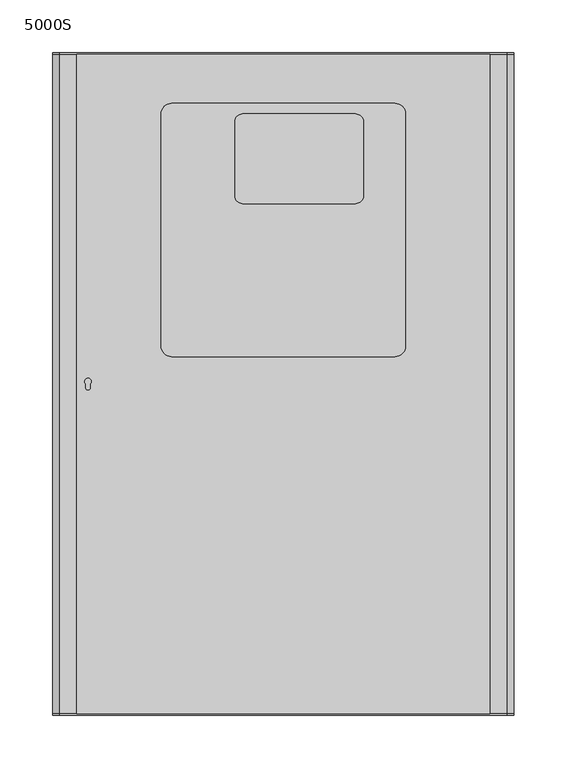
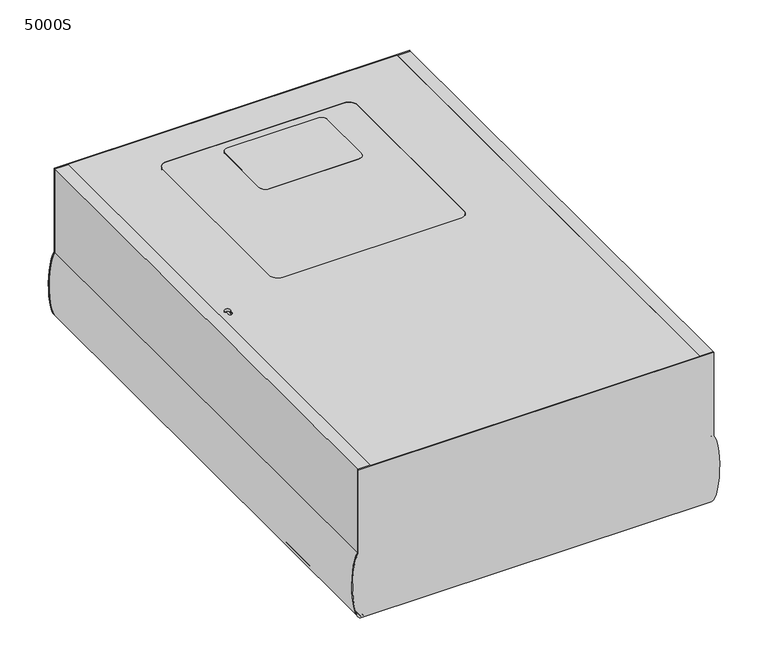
"""IFC4 building model written with IfcOpenShell, lengths in millimetres: alarm geometry, 5000S_Control Panel and Indicating Equipment : 5000S."""

import ifcopenshell
import ifcopenshell.guid

model = None  # the IFC model being written
_history = None  # IfcOwnerHistory: only IFC2X3 demands one
_inside = {}  # id of a spatial element -> (the spatial element, [elements in it])
_under = {}  # id of a project, library or spatial element -> (it, [spatial elements below it])
_declared = {}  # id of a project -> (the project, [libraries it declares])
_typed = {}  # id of a type object -> (the type object, [elements of that type])
_made_of = {}  # id of a material, layer set ... -> (it, [elements and type objects made of it])


def new_model(schema):
    """Start an empty IFC model of exactly this schema.

    Asked for "IFC4X3", IfcOpenShell would pick the latest addendum, in which some entities
    have other attributes; the version numbers below select the first issue.
    IFC2X3 requires an IfcOwnerHistory on every rooted entity: one is made here for all.
    """
    global model, _history
    if schema == "IFC4X3":
        model = ifcopenshell.file(schema_version=(4, 3, 0, 0))
    else:
        model = ifcopenshell.file(schema=schema)
    _inside.clear()
    _under.clear()
    _declared.clear()
    _typed.clear()
    _made_of.clear()
    _history = None
    if model.schema == "IFC2X3":
        org = make("IfcOrganization", Name="unknown")
        user = make(
            "IfcPersonAndOrganization",
            ThePerson=make("IfcPerson", FamilyName="unknown"),
            TheOrganization=org,
        )
        app = make(
            "IfcApplication",
            ApplicationDeveloper=org,
            Version="unknown",
            ApplicationFullName="unknown",
            ApplicationIdentifier="unknown",
        )
        _history = make(
            "IfcOwnerHistory",
            OwningUser=user,
            OwningApplication=app,
            ChangeAction="ADDED",
            CreationDate=0,
        )
    return model


def make(cls, **values):
    """One entity of the class cls with the attributes given. An attribute that is None is left unset."""
    return model.create_entity(
        cls, **{name: value for name, value in values.items() if value is not None}
    )


def rooted(cls, **values):
    """An entity with a GlobalId (a new one), such as an element, a storey or a relation."""
    return make(cls, GlobalId=ifcopenshell.guid.new(), OwnerHistory=_history, **values)


def si_unit(unit_type, name, prefix=None):
    """IfcSIUnit, for example si_unit("LENGTHUNIT", "METRE", prefix="MILLI")."""
    return make("IfcSIUnit", UnitType=unit_type, Prefix=prefix, Name=name)


def assignment(units):
    """IfcUnitAssignment: the units of a project."""
    return None if units is None else make("IfcUnitAssignment", Units=units)


def point(xyz):
    """IfcCartesianPoint."""
    return None if xyz is None else make("IfcCartesianPoint", Coordinates=xyz)


def direction(xyz):
    """IfcDirection."""
    return None if xyz is None else make("IfcDirection", DirectionRatios=xyz)


def frame(location, z_axis=None, x_axis=None):
    """IfcAxis2Placement3D, a coordinate frame: its origin and axes. An axis left out is left unset."""
    return make(
        "IfcAxis2Placement3D",
        Location=point(location),
        Axis=direction(z_axis),
        RefDirection=direction(x_axis),
    )


def frame_2d(location, x_axis=None):
    """IfcAxis2Placement2D, a coordinate frame in the plane: its origin and x axis."""
    return make(
        "IfcAxis2Placement2D", Location=point(location), RefDirection=direction(x_axis)
    )


def origin():
    """The frame at (0, 0, 0) with its axes left unset."""
    return frame((0.0, 0.0, 0.0))


def origin_with_axes():
    """The frame at (0, 0, 0) with the z axis (0, 0, 1) and the x axis (1, 0, 0) written out."""
    return frame((0.0, 0.0, 0.0), z_axis=(0.0, 0.0, 1.0), x_axis=(1.0, 0.0, 0.0))


def place(relative_to, where):
    """IfcLocalPlacement: puts the frame where relative to a parent placement (None: the world)."""
    return make(
        "IfcLocalPlacement", PlacementRelTo=relative_to, RelativePlacement=where
    )


def context(
    kind, dimensions, precision=None, world=None, true_north=None, identifier=None
):
    """IfcGeometricRepresentationContext, for example the 3D "Model" context."""
    return make(
        "IfcGeometricRepresentationContext",
        ContextIdentifier=identifier,
        ContextType=kind,
        CoordinateSpaceDimension=dimensions,
        Precision=precision,
        WorldCoordinateSystem=world,
        TrueNorth=true_north,
    )


def project(units=None, contexts=None):
    """IfcProject with its units and contexts."""
    return rooted(
        "IfcProject",
        Name="project",
        RepresentationContexts=contexts,
        UnitsInContext=assignment(units),
    )


def spatial(cls, under=None, at=None, **own):
    """A site, building, storey or space (cls), placed at a placement, below another one or the project."""
    s = rooted(cls, ObjectPlacement=at, **own)
    if under is not None:
        _under.setdefault(under.id(), (under, []))[1].append(s)
    return s


def polyline(points):
    """IfcPolyline through the points."""
    return make("IfcPolyline", Points=[point(p) for p in points])


def circle_curve(where, radius):
    """IfcCircle in the frame where."""
    return make("IfcCircle", Position=where, Radius=radius)


def ellipse_curve(where, semi_axis1, semi_axis2):
    """IfcEllipse in the frame where."""
    return make(
        "IfcEllipse", Position=where, SemiAxis1=semi_axis1, SemiAxis2=semi_axis2
    )


def trimmed(basis, trim1, trim2, sense, master):
    """IfcTrimmedCurve: the piece of a basis curve between two trims."""
    return make(
        "IfcTrimmedCurve",
        BasisCurve=basis,
        Trim1=trim1,
        Trim2=trim2,
        SenseAgreement=sense,
        MasterRepresentation=master,
    )


def segment(curve, same_sense, transition):
    """IfcCompositeCurveSegment."""
    return make(
        "IfcCompositeCurveSegment",
        Transition=transition,
        SameSense=same_sense,
        ParentCurve=curve,
    )


def composite_curve(segments, self_intersect=None):
    """IfcCompositeCurve: segments joined end to end."""
    return make("IfcCompositeCurve", Segments=segments, SelfIntersect=self_intersect)


def outline(outer, holes=None, kind="AREA"):
    """IfcArbitraryClosedProfileDef: a profile drawn as a closed curve; with holes, ...WithVoids."""
    if holes is None:
        return make("IfcArbitraryClosedProfileDef", ProfileType=kind, OuterCurve=outer)
    return make(
        "IfcArbitraryProfileDefWithVoids",
        ProfileType=kind,
        OuterCurve=outer,
        InnerCurves=holes,
    )


def extrude(swept, where, along, depth):
    """IfcExtrudedAreaSolid: the profile swept, set in the frame where, extruded along a direction by depth."""
    return make(
        "IfcExtrudedAreaSolid",
        SweptArea=swept,
        Position=where,
        ExtrudedDirection=direction(along),
        Depth=depth,
    )


def shape(context_of_items, identifier, shape_type, items):
    """IfcShapeRepresentation: the items that make up one representation, for example the "Body"."""
    return make(
        "IfcShapeRepresentation",
        ContextOfItems=context_of_items,
        RepresentationIdentifier=identifier,
        RepresentationType=shape_type,
        Items=items,
    )


def source(mapping_origin, context_of_items, identifier, shape_type, items):
    """IfcRepresentationMap: a shape defined once, which mapped items show again and again."""
    return make(
        "IfcRepresentationMap",
        MappingOrigin=mapping_origin,
        MappedRepresentation=shape(context_of_items, identifier, shape_type, items),
    )


def transform(
    local_origin,
    x_axis=None,
    y_axis=None,
    z_axis=None,
    scale=None,
    scale2=None,
    scale3=None,
    uniform=True,
):
    """IfcCartesianTransformationOperator3D, or its non-uniform kind. x_axis, y_axis, z_axis: its Axis1, 2, 3."""
    if uniform:
        return make(
            "IfcCartesianTransformationOperator3D",
            Axis1=direction(x_axis),
            Axis2=direction(y_axis),
            LocalOrigin=point(local_origin),
            Scale=scale,
            Axis3=direction(z_axis),
        )
    return make(
        "IfcCartesianTransformationOperator3DnonUniform",
        Axis1=direction(x_axis),
        Axis2=direction(y_axis),
        LocalOrigin=point(local_origin),
        Scale=scale,
        Axis3=direction(z_axis),
        Scale2=scale2,
        Scale3=scale3,
    )


def mapped(mapping_source, mapping_target):
    """IfcMappedItem: shows the shape of a source again, moved by a transform."""
    return make(
        "IfcMappedItem", MappingSource=mapping_source, MappingTarget=mapping_target
    )


def made_of(thing, what):
    """Note that an element or type object is made of a material, layer set ...; save() writes the relation."""
    if what is not None:
        _made_of.setdefault(what.id(), (what, []))[1].append(thing)
    return thing


def element(
    cls,
    number,
    at=None,
    inside=None,
    cuts=None,
    type_object=None,
    material=None,
    context=None,
    identifier="Body",
    shape_type=None,
    held_by="IfcProductDefinitionShape",
    body=None,
    shapes=None,
    **own,
):
    """One element of the class cls, such as IfcWall. Its Tag is "e" and its number.

    at: its placement. inside: the storey or other place that contains it. cuts: it is an
    opening in that element (IfcRelVoidsElement). A single representation is given by context,
    identifier, shape_type and body (its items); several are given by shapes. held_by: the class
    of the entity that holds the representations. save() writes the other relations.
    """
    e = rooted(cls, Tag="e%d" % number, ObjectPlacement=at, **own)
    if body is not None:
        shapes = [shape(context, identifier, shape_type, body)]
    if shapes is not None:
        e.Representation = make(held_by, Representations=shapes)
    if inside is not None:
        _inside.setdefault(inside.id(), (inside, []))[1].append(e)
    if cuts is not None:
        rooted(
            "IfcRelVoidsElement", RelatingBuildingElement=cuts, RelatedOpeningElement=e
        )
    if type_object is not None:
        _typed.setdefault(type_object.id(), (type_object, []))[1].append(e)
    return made_of(e, material)


def aggregate(whole, parts):
    """IfcRelAggregates: a whole, such as a stair, and the parts it consists of."""
    return rooted("IfcRelAggregates", RelatingObject=whole, RelatedObjects=parts)


def save(model, path):
    """Write the relations noted so far, then the file.

    IfcRelAggregates (storeys below a building ...), IfcRelContainedInSpatialStructure (elements
    in a storey), IfcRelDefinesByType, IfcRelAssociatesMaterial and IfcRelDeclares: one each for
    every whole, place, type object, material and project.
    """
    for whole, parts in _under.values():
        aggregate(whole, parts)
    for where, things in _inside.values():
        rooted(
            "IfcRelContainedInSpatialStructure",
            RelatedElements=things,
            RelatingStructure=where,
        )
    for kind, things in _typed.values():
        rooted("IfcRelDefinesByType", RelatedObjects=things, RelatingType=kind)
    for what, things in _made_of.values():
        rooted("IfcRelAssociatesMaterial", RelatedObjects=things, RelatingMaterial=what)
    for by, libraries in _declared.values():
        rooted("IfcRelDeclares", RelatingContext=by, RelatedDefinitions=libraries)
    model.write(path)


def plane_surface(at):
    """IfcPlane: the flat surface through the origin of the frame at, square to its z axis."""
    return make("IfcPlane", Position=at)


def extruded_surface(curve, direction_of_extrusion, depth):
    """IfcSurfaceOfLinearExtrusion: the curve pushed along a direction by depth."""
    return make(
        "IfcSurfaceOfLinearExtrusion",
        SweptCurve=make("IfcArbitraryOpenProfileDef", ProfileType="CURVE", Curve=curve),
        ExtrudedDirection=direction(direction_of_extrusion),
        Depth=depth,
    )


def advanced_brep(points, edges, surfaces, faces):
    """IfcAdvancedBrep: a solid bounded by faces that lie on surfaces and meet in shared edges.

    An edge is (start, end): straight between two places in points (the first is 0);
    or (start, end, curve); or (start, end, curve, False) where it runs against its curve.
    A face is (place in surfaces, loops), or (place, loops, False) where it looks against
    its surface's normal. A loop lists edges by number (the first is 1), with a minus sign
    where the edge is run from its end to its start. The first loop is the outer one.
    """
    corners = [point(p) for p in points]
    vertices = [make("IfcVertexPoint", VertexGeometry=c) for c in corners]
    made = []
    for start, end, *more in edges:
        made.append(
            make(
                "IfcEdgeCurve",
                EdgeStart=vertices[start],
                EdgeEnd=vertices[end],
                EdgeGeometry=more[0] if more else make("IfcPolyline", Points=[corners[start], corners[end]]),
                SameSense=more[1] if len(more) > 1 else True,
            )
        )
    hull = []
    for where, loops, *sense in faces:
        bounds = []
        for j, loop in enumerate(loops):
            ring = [make("IfcOrientedEdge", EdgeElement=made[abs(k) - 1], Orientation=k > 0) for k in loop]
            bounds.append(
                make(
                    "IfcFaceOuterBound" if j == 0 else "IfcFaceBound",
                    Bound=make("IfcEdgeLoop", EdgeList=ring),
                    Orientation=True,
                )
            )
        hull.append(make("IfcAdvancedFace", Bounds=bounds, FaceSurface=surfaces[where], SameSense=sense[0] if sense else True))
    return make("IfcAdvancedBrep", Outer=make("IfcClosedShell", CfsFaces=hull))


def alarm_5000s_0b88c54d(model_context):
    return source(origin(), model_context, "Body", "SolidModel", [
        extrude(outline(polyline([(196.0, 312.5), (196.0, -312.5), (-196.0, -312.5), (-196.0, 312.5), (196.0, 312.5)]), holes=[composite_curve([segment(trimmed(circle_curve(frame_2d((-106.0, 36.0)), 10.0), [point((-116.0, 36.0))], [point((-106.0, 26.0))], True, "CARTESIAN"), True, "CONTINUOUS"), segment(polyline([(-106.0, 26.0), (106.0, 26.0)]), True, "CONTINUOUS"), segment(trimmed(circle_curve(frame_2d((106.0, 36.0)), 10.0), [point((106.0, 26.0))], [point((116.0, 36.0))], True, "CARTESIAN"), True, "CONTINUOUS"), segment(polyline([(116.0, 36.0), (116.0, 256.0)]), True, "CONTINUOUS"), segment(trimmed(circle_curve(frame_2d((106.0, 256.0)), 10.0), [point((116.0, 256.0))], [point((106.0, 266.0))], True, "CARTESIAN"), True, "CONTINUOUS"), segment(polyline([(106.0, 266.0), (-106.0, 266.0)]), True, "CONTINUOUS"), segment(trimmed(circle_curve(frame_2d((-106.0, 256.0)), 10.0), [point((-106.0, 266.0))], [point((-116.0, 256.0))], True, "CARTESIAN"), True, "CONTINUOUS"), segment(polyline([(-116.0, 256.0), (-116.0, 36.0)]), True, "CONTINUOUS")], self_intersect=False), composite_curve([segment(trimmed(circle_curve(frame_2d((-185.3840305, -3.2991506)), 2.3331281), [point((-187.7171587, -3.2991506))], [point((-183.0509024, -3.2991506))], True, "CARTESIAN"), True, "CONTINUOUS"), segment(polyline([(-183.0509024, -3.2991506), (-183.0509024, 0.0)]), True, "CONTINUOUS"), segment(trimmed(circle_curve(frame_2d((-185.3840305, 2.1998224)), 3.2066658), [point((-183.0509024, 0.0))], [point((-187.7171587, 0.0))], True, "CARTESIAN"), True, "CONTINUOUS"), segment(polyline([(-187.7171587, 0.0), (-187.7171587, -3.2991506)]), True, "CONTINUOUS")], self_intersect=False)]), frame((0.0, 0.0, 184.0), z_axis=(0.0, 0.0, 1.0), x_axis=(1.0, 0.0, 0.0)), (0.0, 0.0, 1.0), 3.0),
        extrude(outline(polyline([(206.0, 312.5), (206.0, -312.5), (-206.0, -312.5), (-206.0, 312.5), (206.0, 312.5)])), origin_with_axes(), (0.0, 0.0, 1.0), 3.0),
        extrude(outline(composite_curve([segment(trimmed(circle_curve(frame_2d((-38.5, 248.5)), 7.5), [point((-46.0, 248.5))], [point((-38.5, 256.0))], False, "CARTESIAN"), True, "CONTINUOUS"), segment(polyline([(-38.5, 256.0), (68.5, 256.0)]), True, "CONTINUOUS"), segment(trimmed(circle_curve(frame_2d((68.5, 248.5)), 7.5), [point((68.5, 256.0))], [point((76.0, 248.5))], False, "CARTESIAN"), True, "CONTINUOUS"), segment(polyline([(76.0, 248.5), (76.0, 178.5)]), True, "CONTINUOUS"), segment(trimmed(circle_curve(frame_2d((68.5, 178.5)), 7.5), [point((76.0, 178.5))], [point((68.5, 171.0))], False, "CARTESIAN"), True, "CONTINUOUS"), segment(polyline([(68.5, 171.0), (-38.5, 171.0)]), True, "CONTINUOUS"), segment(trimmed(circle_curve(frame_2d((-38.5, 178.5)), 7.5), [point((-38.5, 171.0))], [point((-46.0, 178.5))], False, "CARTESIAN"), True, "CONTINUOUS"), segment(polyline([(-46.0, 178.5), (-46.0, 248.5)]), True, "CONTINUOUS")], self_intersect=False)), frame((0.0, 0.0, 184.0), z_axis=(0.0, 0.0, 1.0), x_axis=(1.0, 0.0, 0.0)), (0.0, 0.0, 1.0), 3.0),
        extrude(outline(composite_curve([segment(trimmed(circle_curve(frame_2d((-106.0, 256.0)), 10.0), [point((-116.0, 256.0))], [point((-106.0, 266.0))], False, "CARTESIAN"), True, "CONTINUOUS"), segment(polyline([(-106.0, 266.0), (106.0, 266.0)]), True, "CONTINUOUS"), segment(trimmed(circle_curve(frame_2d((106.0, 256.0)), 10.0), [point((106.0, 266.0))], [point((116.0, 256.0))], False, "CARTESIAN"), True, "CONTINUOUS"), segment(polyline([(116.0, 256.0), (116.0, 36.0)]), True, "CONTINUOUS"), segment(trimmed(circle_curve(frame_2d((106.0, 36.0)), 10.0), [point((116.0, 36.0))], [point((106.0, 26.0))], False, "CARTESIAN"), True, "CONTINUOUS"), segment(polyline([(106.0, 26.0), (-106.0, 26.0)]), True, "CONTINUOUS"), segment(trimmed(circle_curve(frame_2d((-106.0, 36.0)), 10.0), [point((-106.0, 26.0))], [point((-116.0, 36.0))], False, "CARTESIAN"), True, "CONTINUOUS"), segment(polyline([(-116.0, 36.0), (-116.0, 256.0)]), True, "CONTINUOUS")], self_intersect=False), holes=[composite_curve([segment(polyline([(68.5, 256.0), (-38.5, 256.0)]), True, "CONTINUOUS"), segment(trimmed(circle_curve(frame_2d((-38.5, 248.5)), 7.5), [point((-38.5, 256.0))], [point((-46.0, 248.5))], True, "CARTESIAN"), True, "CONTINUOUS"), segment(polyline([(-46.0, 248.5), (-46.0, 178.5)]), True, "CONTINUOUS"), segment(trimmed(circle_curve(frame_2d((-38.5, 178.5)), 7.5), [point((-46.0, 178.5))], [point((-38.5, 171.0))], True, "CARTESIAN"), True, "CONTINUOUS"), segment(polyline([(-38.5, 171.0), (68.5, 171.0)]), True, "CONTINUOUS"), segment(trimmed(circle_curve(frame_2d((68.5, 178.5)), 7.5), [point((68.5, 171.0))], [point((76.0, 178.5))], True, "CARTESIAN"), True, "CONTINUOUS"), segment(polyline([(76.0, 178.5), (76.0, 248.5)]), True, "CONTINUOUS"), segment(trimmed(circle_curve(frame_2d((68.5, 248.5)), 7.5), [point((76.0, 248.5))], [point((68.5, 256.0))], True, "CARTESIAN"), True, "CONTINUOUS")], self_intersect=False)]), frame((0.0, 0.0, 184.0), z_axis=(0.0, 0.0, 1.0), x_axis=(1.0, 0.0, 0.0)), (0.0, 0.0, 1.0), 3.0),
        advanced_brep(
        [(-212.0, 312.5, 187.0), (-212.0, 312.5, 82.0617947), (-209.0741049, 312.5, 0.0), (209.0741049, 312.5, 0.0), (212.0, 312.5, 82.0617947), (212.0, 312.5, 187.0), (-212.0, 314.0, 187.0), (212.0, 314.0, 187.0), (212.0, 314.0, 82.0617947), (209.0741049, 314.0, 0.0), (-209.0741049, 314.0, 0.0), (-212.0, 314.0, 82.0617947)],
        [
            (0, 1),
            (1, 2, ellipse_curve(frame((-209.0741049, 312.5, 41.9929453), z_axis=(0.0, -1.0, 0.0), x_axis=(0.0, 0.0, 1.0)), 41.9929453, 9.7780266)),
            (2, 3),
            (3, 4, ellipse_curve(frame((209.0741049, 312.5, 41.9929453), z_axis=(0.0, -1.0, 0.0), x_axis=(0.0, 0.0, 1.0)), 41.9929453, 9.7780266)),
            (4, 5),
            (5, 0),
            (6, 7),
            (7, 8),
            (8, 9, ellipse_curve(frame((209.0741049, 314.0, 41.9929453), z_axis=(0.0, 1.0, 0.0), x_axis=(0.0, 0.0, 1.0)), 41.9929453, 9.7780266)),
            (9, 10),
            (10, 11, ellipse_curve(frame((-209.0741049, 314.0, 41.9929453), z_axis=(0.0, 1.0, 0.0), x_axis=(0.0, 0.0, 1.0)), 41.9929453, 9.7780266)),
            (11, 6),
            (11, 1),
            (0, 6),
            (9, 3),
            (2, 10),
            (8, 4),
            (7, 5),
        ],
        [
            plane_surface(frame((-212.0, 312.5, 187.0), z_axis=(0.0, -1.0, 0.0), x_axis=(-1.0, 0.0, 0.0))),
            plane_surface(frame((-212.0, 314.0, 187.0), z_axis=(0.0, 1.0, 0.0), x_axis=(1.0, 0.0, 0.0))),
            plane_surface(frame((-212.0, 314.0, 82.0617947), z_axis=(-1.0, 0.0, 0.0), x_axis=(0.0, -1.0, 0.0))),
            plane_surface(frame((209.0741049, 314.0, 0.0), z_axis=(0.0, 0.0, -1.0), x_axis=(0.0, -1.0, 0.0))),
            extruded_surface(trimmed(ellipse_curve(frame((209.0741049, 311.0, 41.9929453), z_axis=(0.0, 1.0, 0.0), x_axis=(0.0, 0.0, 1.0)), 41.9929453, 9.7780266), [point((212.0, 311.0, 82.0617947))], [point((209.0741049, 311.0, 0.0))], True, "CARTESIAN"), (0.0, 1.5, 0.0), 1.5),
            plane_surface(frame((212.0, 314.0, 187.0), z_axis=(1.0, 0.0, 0.0), x_axis=(0.0, -1.0, 0.0))),
            plane_surface(frame((-212.0, 314.0, 187.0), z_axis=(0.0, 0.0, 1.0), x_axis=(0.0, -1.0, 0.0))),
            extruded_surface(trimmed(ellipse_curve(frame((-209.0741049, 311.0, 41.9929453), z_axis=(0.0, 1.0, 0.0), x_axis=(0.0, 0.0, 1.0)), 41.9929453, 9.7780266), [point((-209.0741049, 311.0, 0.0))], [point((-212.0, 311.0, 82.0617947))], True, "CARTESIAN"), (0.0, 1.5, 0.0), 1.5),
        ],
        [
            (0, [[1, 2, 3, 4, 5, 6]]),
            (1, [[7, 8, 9, 10, 11, 12]]),
            (2, [[-12, 13, -1, 14]]),
            (3, [[-10, 15, -3, 16]]),
            (4, [[-9, 17, -4, -15]]),
            (5, [[-8, 18, -5, -17]]),
            (6, [[-7, -14, -6, -18]]),
            (7, [[-11, -16, -2, -13]]),
        ],
    ),
        advanced_brep(
        [(-212.0, -312.5, 187.0), (212.0, -312.5, 187.0), (212.0, -312.5, 82.0617947), (209.0741049, -312.5, 0.0), (-209.0741049, -312.5, 0.0), (-212.0, -312.5, 82.0617947), (-212.0, -314.0, 187.0), (-212.0, -314.0, 82.0617947), (-209.0741049, -314.0, 0.0), (209.0741049, -314.0, 0.0), (212.0, -314.0, 82.0617947), (212.0, -314.0, 187.0)],
        [
            (0, 1),
            (1, 2),
            (2, 3, ellipse_curve(frame((209.0741049, -312.5, 41.9929453), z_axis=(0.0, 1.0, 0.0), x_axis=(0.0, 0.0, 1.0)), 41.9929453, 9.7780266)),
            (3, 4),
            (4, 5, ellipse_curve(frame((-209.0741049, -312.5, 41.9929453), z_axis=(0.0, 1.0, 0.0), x_axis=(0.0, 0.0, 1.0)), 41.9929453, 9.7780266)),
            (5, 0),
            (6, 7),
            (7, 8, ellipse_curve(frame((-209.0741049, -314.0, 41.9929453), z_axis=(0.0, -1.0, 0.0), x_axis=(0.0, 0.0, 1.0)), 41.9929453, 9.7780266)),
            (8, 9),
            (9, 10, ellipse_curve(frame((209.0741049, -314.0, 41.9929453), z_axis=(0.0, -1.0, 0.0), x_axis=(0.0, 0.0, 1.0)), 41.9929453, 9.7780266)),
            (10, 11),
            (11, 6),
            (6, 0),
            (5, 7),
            (8, 4),
            (3, 9),
            (2, 10),
            (1, 11),
        ],
        [
            plane_surface(frame((-212.0, -312.5, 82.0617947), z_axis=(0.0, 1.0, 0.0), x_axis=(0.0, 0.0, 1.0))),
            plane_surface(frame((-212.0, -314.0, 82.0617947), z_axis=(0.0, -1.0, 0.0), x_axis=(0.0, 0.0, -1.0))),
            plane_surface(frame((-212.0, -314.0, 187.0), z_axis=(-1.0, 0.0, 0.0), x_axis=(0.0, 1.0, 0.0))),
            plane_surface(frame((-209.0741049, -314.0, 0.0), z_axis=(0.0, 0.0, -1.0), x_axis=(0.0, 1.0, 0.0))),
            extruded_surface(trimmed(ellipse_curve(frame((209.0741049, -311.0, 41.9929453), z_axis=(0.0, -1.0, 0.0), x_axis=(0.0, 0.0, 1.0)), 41.9929453, 9.7780266), [point((209.0741049, -311.0, 0.0))], [point((212.0, -311.0, 82.0617947))], True, "CARTESIAN"), (0.0, -1.5, 0.0), 1.5),
            plane_surface(frame((212.0, -314.0, 82.0617947), z_axis=(1.0, 0.0, 0.0), x_axis=(0.0, 1.0, 0.0))),
            plane_surface(frame((212.0, -314.0, 187.0), z_axis=(0.0, 0.0, 1.0), x_axis=(0.0, 1.0, 0.0))),
            extruded_surface(trimmed(ellipse_curve(frame((-209.0741049, -311.0, 41.9929453), z_axis=(0.0, -1.0, 0.0), x_axis=(0.0, 0.0, 1.0)), 41.9929453, 9.7780266), [point((-212.0, -311.0, 82.0617947))], [point((-209.0741049, -311.0, 0.0))], True, "CARTESIAN"), (0.0, -1.5, 0.0), 1.5),
        ],
        [
            (0, [[1, 2, 3, 4, 5, 6]]),
            (1, [[7, 8, 9, 10, 11, 12]]),
            (2, [[-7, 13, -6, 14]]),
            (3, [[-9, 15, -4, 16]]),
            (4, [[-10, -16, -3, 17]]),
            (5, [[-11, -17, -2, 18]]),
            (6, [[-12, -18, -1, -13]]),
            (7, [[-8, -14, -5, -15]]),
        ],
    ),
        advanced_brep(
        [(209.0, -312.5, 82.0617947), (206.0741049, -312.5, 0.0), (209.0741049, -312.5, 0.0), (212.0, -312.5, 82.0617947), (212.0, -312.5, 187.0), (196.0, -312.5, 187.0), (196.0, -312.5, 184.0), (209.0, -312.5, 184.0), (209.0, 312.5, 82.0617947), (209.0, 312.5, 184.0), (196.0, 312.5, 184.0), (196.0, 312.5, 187.0), (212.0, 312.5, 187.0), (212.0, 312.5, 82.0617947), (209.0741049, 312.5, 0.0), (206.0741049, 312.5, 0.0)],
        [
            (0, 1, ellipse_curve(frame((206.0741049, -312.5, 41.9929453), z_axis=(0.0, 1.0, 0.0), x_axis=(0.0, 0.0, 1.0)), 41.9929453, 9.7780266)),
            (1, 2),
            (2, 3, ellipse_curve(frame((209.0741049, -312.5, 41.9929453), z_axis=(0.0, -1.0, 0.0), x_axis=(0.0, 0.0, 1.0)), 41.9929453, 9.7780266)),
            (3, 4),
            (4, 5),
            (5, 6),
            (6, 7),
            (7, 0),
            (8, 9),
            (9, 10),
            (10, 11),
            (11, 12),
            (12, 13),
            (13, 14, ellipse_curve(frame((209.0741049, 312.5, 41.9929453), z_axis=(0.0, 1.0, 0.0), x_axis=(0.0, 0.0, 1.0)), 41.9929453, 9.7780266)),
            (14, 15),
            (15, 8, ellipse_curve(frame((206.0741049, 312.5, 41.9929453), z_axis=(0.0, -1.0, 0.0), x_axis=(0.0, 0.0, 1.0)), 41.9929453, 9.7780266)),
            (7, 9),
            (8, 0),
            (6, 10),
            (5, 11),
            (4, 12),
            (3, 13),
            (2, 14),
            (1, 15),
        ],
        [
            plane_surface(frame((206.0741049, -312.5, 83.9858906), z_axis=(0.0, -1.0, 0.0), x_axis=(1.0, 0.0, 0.0))),
            plane_surface(frame((206.0741049, 312.5, 83.9858906), z_axis=(0.0, 1.0, 0.0), x_axis=(-1.0, 0.0, 0.0))),
            plane_surface(frame((209.0, -312.5, 184.0), z_axis=(-1.0, 0.0, 0.0), x_axis=(0.0, 1.0, 0.0))),
            plane_surface(frame((196.0, -312.5, 184.0), z_axis=(0.0, 0.0, -1.0), x_axis=(0.0, 1.0, 0.0))),
            plane_surface(frame((196.0, -312.5, 187.0), z_axis=(-1.0, 0.0, 0.0), x_axis=(0.0, 1.0, 0.0))),
            plane_surface(frame((212.0, -312.5, 187.0), z_axis=(0.0, 0.0, 1.0), x_axis=(0.0, 1.0, 0.0))),
            plane_surface(frame((212.0, -312.5, 82.0617947), z_axis=(1.0, 0.0, 0.0), x_axis=(0.0, 1.0, 0.0))),
            extruded_surface(trimmed(ellipse_curve(frame((209.0741049, 937.5, 41.9929453), z_axis=(0.0, -1.0, 0.0), x_axis=(0.0, 0.0, 1.0)), 41.9929453, 9.7780266), [point((209.0741049, 937.5, 0.0))], [point((212.0, 937.5, 82.0617947))], True, "CARTESIAN"), (0.0, -625.0, 0.0), 625.0),
            plane_surface(frame((206.0741049, -312.5, 0.0), z_axis=(0.0, 0.0, -1.0), x_axis=(0.0, 1.0, 0.0))),
            extruded_surface(trimmed(ellipse_curve(frame((206.0741049, 937.5, 41.9929453), z_axis=(0.0, 1.0, 0.0), x_axis=(0.0, 0.0, 1.0)), 41.9929453, 9.7780266), [point((209.0, 937.5, 82.0617947))], [point((206.0741049, 937.5, 0.0))], True, "CARTESIAN"), (0.0, -625.0, 0.0), 625.0),
        ],
        [
            (0, [[1, 2, 3, 4, 5, 6, 7, 8]]),
            (1, [[9, 10, 11, 12, 13, 14, 15, 16]]),
            (2, [[-8, 17, -9, 18]]),
            (3, [[-7, 19, -10, -17]]),
            (4, [[-6, 20, -11, -19]]),
            (5, [[-5, 21, -12, -20]]),
            (6, [[-4, 22, -13, -21]]),
            (7, [[-3, 23, -14, -22]]),
            (8, [[-2, 24, -15, -23]]),
            (9, [[-1, -18, -16, -24]]),
        ],
    ),
        advanced_brep(
        [(-209.0, -312.5, 82.0617947), (-209.0, -312.5, 184.0), (-196.0, -312.5, 184.0), (-196.0, -312.5, 187.0), (-212.0, -312.5, 187.0), (-212.0, -312.5, 82.0617947), (-209.0741049, -312.5, 0.0), (-206.0741049, -312.5, 0.0), (-209.0, 312.5, 82.0617947), (-206.0741049, 312.5, 0.0), (-209.0741049, 312.5, 0.0), (-212.0, 312.5, 82.0617947), (-212.0, 312.5, 187.0), (-196.0, 312.5, 187.0), (-196.0, 312.5, 184.0), (-209.0, 312.5, 184.0)],
        [
            (0, 1),
            (1, 2),
            (2, 3),
            (3, 4),
            (4, 5),
            (5, 6, ellipse_curve(frame((-209.0741049, -312.5, 41.9929453), z_axis=(0.0, -1.0, 0.0), x_axis=(0.0, 0.0, 1.0)), 41.9929453, 9.7780266)),
            (6, 7),
            (7, 0, ellipse_curve(frame((-206.0741049, -312.5, 41.9929453), z_axis=(0.0, 1.0, 0.0), x_axis=(0.0, 0.0, 1.0)), 41.9929453, 9.7780266)),
            (8, 9, ellipse_curve(frame((-206.0741049, 312.5, 41.9929453), z_axis=(0.0, -1.0, 0.0), x_axis=(0.0, 0.0, 1.0)), 41.9929453, 9.7780266)),
            (9, 10),
            (10, 11, ellipse_curve(frame((-209.0741049, 312.5, 41.9929453), z_axis=(0.0, 1.0, 0.0), x_axis=(0.0, 0.0, 1.0)), 41.9929453, 9.7780266)),
            (11, 12),
            (12, 13),
            (13, 14),
            (14, 15),
            (15, 8),
            (0, 8),
            (15, 1),
            (14, 2),
            (13, 3),
            (12, 4),
            (11, 5),
            (10, 6),
            (9, 7),
        ],
        [
            plane_surface(frame((-209.0, -312.5, 184.0), z_axis=(0.0, -1.0, 0.0), x_axis=(0.0, 0.0, 1.0))),
            plane_surface(frame((-209.0, 312.5, 184.0), z_axis=(0.0, 1.0, 0.0), x_axis=(0.0, 0.0, -1.0))),
            plane_surface(frame((-209.0, -312.5, 82.0617947), z_axis=(1.0, 0.0, 0.0), x_axis=(0.0, 1.0, 0.0))),
            plane_surface(frame((-209.0, -312.5, 184.0), z_axis=(0.0, 0.0, -1.0), x_axis=(0.0, 1.0, 0.0))),
            plane_surface(frame((-196.0, -312.5, 184.0), z_axis=(1.0, 0.0, 0.0), x_axis=(0.0, 1.0, 0.0))),
            plane_surface(frame((-196.0, -312.5, 187.0), z_axis=(0.0, 0.0, 1.0), x_axis=(0.0, 1.0, 0.0))),
            plane_surface(frame((-212.0, -312.5, 187.0), z_axis=(-1.0, 0.0, 0.0), x_axis=(0.0, 1.0, 0.0))),
            extruded_surface(trimmed(ellipse_curve(frame((-209.0741049, 937.5, 41.9929453), z_axis=(0.0, -1.0, 0.0), x_axis=(0.0, 0.0, 1.0)), 41.9929453, 9.7780266), [point((-212.0, 937.5, 82.0617947))], [point((-209.0741049, 937.5, 0.0))], True, "CARTESIAN"), (0.0, -625.0, 0.0), 625.0),
            plane_surface(frame((-209.0741049, -312.5, 0.0), z_axis=(0.0, 0.0, -1.0), x_axis=(0.0, 1.0, 0.0))),
            extruded_surface(trimmed(ellipse_curve(frame((-206.0741049, 937.5, 41.9929453), z_axis=(0.0, 1.0, 0.0), x_axis=(0.0, 0.0, 1.0)), 41.9929453, 9.7780266), [point((-206.0741049, 937.5, 0.0))], [point((-209.0, 937.5, 82.0617947))], True, "CARTESIAN"), (0.0, -625.0, 0.0), 625.0),
        ],
        [
            (0, [[1, 2, 3, 4, 5, 6, 7, 8]]),
            (1, [[9, 10, 11, 12, 13, 14, 15, 16]]),
            (2, [[-1, 17, -16, 18]]),
            (3, [[-2, -18, -15, 19]]),
            (4, [[-3, -19, -14, 20]]),
            (5, [[-4, -20, -13, 21]]),
            (6, [[-5, -21, -12, 22]]),
            (7, [[-6, -22, -11, 23]]),
            (8, [[-7, -23, -10, 24]]),
            (9, [[-8, -24, -9, -17]]),
        ],
    ),
        advanced_brep(
        [(-209.0, -312.5, 82.0643791), (-206.0, -312.5, 0.0), (-203.0, -312.5, 0.0), (-206.0, -312.5, 82.0643791), (-206.0, -312.5, 122.0), (-209.0, -312.5, 122.0), (-209.0, 312.5, 82.0643791), (-209.0, 312.5, 122.0), (-206.0, 312.5, 122.0), (-206.0, 312.5, 82.0643791), (-203.0, 312.5, 0.0), (-206.0, 312.5, 0.0)],
        [
            (0, 1, ellipse_curve(frame((-206.0, -312.5, 41.9994538), z_axis=(0.0, -1.0, 0.0), x_axis=(0.0, 0.0, 1.0)), 41.9994538, 10.0)),
            (1, 2),
            (2, 3, ellipse_curve(frame((-203.0, -312.5, 41.9994538), z_axis=(0.0, 1.0, 0.0), x_axis=(0.0, 0.0, 1.0)), 41.9994538, 10.0)),
            (3, 4),
            (4, 5),
            (5, 0),
            (6, 7),
            (7, 8),
            (8, 9),
            (9, 10, ellipse_curve(frame((-203.0, 312.5, 41.9994538), z_axis=(0.0, -1.0, 0.0), x_axis=(0.0, 0.0, 1.0)), 41.9994538, 10.0)),
            (10, 11),
            (11, 6, ellipse_curve(frame((-206.0, 312.5, 41.9994538), z_axis=(0.0, 1.0, 0.0), x_axis=(0.0, 0.0, 1.0)), 41.9994538, 10.0)),
            (3, 9),
            (8, 4),
            (7, 5),
            (6, 0),
            (11, 1),
            (10, 2),
        ],
        [
            plane_surface(frame((-219.0, -312.5, 0.0), z_axis=(0.0, -1.0, 0.0), x_axis=(0.0, 0.0, 1.0))),
            plane_surface(frame((-219.0, 312.5, 0.0), z_axis=(0.0, 1.0, 0.0), x_axis=(0.0, 0.0, 1.0))),
            plane_surface(frame((-206.0, -312.5, 82.0643791), z_axis=(1.0, 0.0, 0.0), x_axis=(0.0, 1.0, 0.0))),
            plane_surface(frame((-206.0, -312.5, 122.0), z_axis=(0.0, 0.0, 1.0), x_axis=(0.0, 1.0, 0.0))),
            plane_surface(frame((-209.0, -312.5, 122.0), z_axis=(-1.0, 0.0, 0.0), x_axis=(0.0, 1.0, 0.0))),
            extruded_surface(trimmed(ellipse_curve(frame((-206.0, 312.5, 41.9994538), z_axis=(0.0, -1.0, 0.0), x_axis=(0.0, 0.0, 1.0)), 41.9994538, 10.0), [point((-209.0, 312.5, 82.0643791))], [point((-206.0, 312.5, 0.0))], True, "CARTESIAN"), (0.0, -625.0, 0.0), 625.0),
            plane_surface(frame((-206.0, -312.5, 0.0), z_axis=(0.0, 0.0, -1.0), x_axis=(0.0, 1.0, 0.0))),
            extruded_surface(trimmed(ellipse_curve(frame((-203.0, 312.5, 41.9994538), z_axis=(0.0, 1.0, 0.0), x_axis=(0.0, 0.0, 1.0)), 41.9994538, 10.0), [point((-203.0, 312.5, 0.0))], [point((-206.0, 312.5, 82.0643791))], True, "CARTESIAN"), (0.0, -625.0, 0.0), 625.0),
        ],
        [
            (0, [[1, 2, 3, 4, 5, 6]]),
            (1, [[7, 8, 9, 10, 11, 12]]),
            (2, [[-4, 13, -9, 14]]),
            (3, [[-5, -14, -8, 15]]),
            (4, [[-6, -15, -7, 16]]),
            (5, [[-1, -16, -12, 17]]),
            (6, [[-2, -17, -11, 18]]),
            (7, [[-3, -18, -10, -13]]),
        ],
    ),
        advanced_brep(
        [(209.0, -312.5, 82.0643791), (209.0, -312.5, 122.0), (206.0, -312.5, 122.0), (206.0, -312.5, 82.0643791), (203.0, -312.5, 0.0), (206.0, -312.5, 0.0), (209.0, 312.5, 82.0643791), (206.0, 312.5, 0.0), (203.0, 312.5, 0.0), (206.0, 312.5, 82.0643791), (206.0, 312.5, 122.0), (209.0, 312.5, 122.0)],
        [
            (0, 1),
            (1, 2),
            (2, 3),
            (3, 4, ellipse_curve(frame((203.0, -312.5, 41.9994538), z_axis=(0.0, 1.0, 0.0), x_axis=(0.0, 0.0, 1.0)), 41.9994538, 10.0)),
            (4, 5),
            (5, 0, ellipse_curve(frame((206.0, -312.5, 41.9994538), z_axis=(0.0, -1.0, 0.0), x_axis=(0.0, 0.0, 1.0)), 41.9994538, 10.0)),
            (6, 7, ellipse_curve(frame((206.0, 312.5, 41.9994538), z_axis=(0.0, 1.0, 0.0), x_axis=(0.0, 0.0, 1.0)), 41.9994538, 10.0)),
            (7, 8),
            (8, 9, ellipse_curve(frame((203.0, 312.5, 41.9994538), z_axis=(0.0, -1.0, 0.0), x_axis=(0.0, 0.0, 1.0)), 41.9994538, 10.0)),
            (9, 10),
            (10, 11),
            (11, 6),
            (0, 6),
            (11, 1),
            (10, 2),
            (9, 3),
            (8, 4),
            (7, 5),
        ],
        [
            plane_surface(frame((219.0, -312.5, 0.0), z_axis=(0.0, -1.0, 0.0), x_axis=(0.0, 0.0, 1.0))),
            plane_surface(frame((219.0, 312.5, 0.0), z_axis=(0.0, 1.0, 0.0), x_axis=(0.0, 0.0, 1.0))),
            plane_surface(frame((209.0, -312.5, 82.0643791), z_axis=(1.0, 0.0, 0.0), x_axis=(0.0, 1.0, 0.0))),
            plane_surface(frame((209.0, -312.5, 122.0), z_axis=(0.0, 0.0, 1.0), x_axis=(0.0, 1.0, 0.0))),
            plane_surface(frame((206.0, -312.5, 122.0), z_axis=(-1.0, 0.0, 0.0), x_axis=(0.0, 1.0, 0.0))),
            extruded_surface(trimmed(ellipse_curve(frame((203.0, 312.5, 41.9994538), z_axis=(0.0, 1.0, 0.0), x_axis=(0.0, 0.0, 1.0)), 41.9994538, 10.0), [point((206.0, 312.5, 82.0643791))], [point((203.0, 312.5, 0.0))], True, "CARTESIAN"), (0.0, -625.0, 0.0), 625.0),
            plane_surface(frame((203.0, -312.5, 0.0), z_axis=(0.0, 0.0, -1.0), x_axis=(0.0, 1.0, 0.0))),
            extruded_surface(trimmed(ellipse_curve(frame((206.0, 312.5, 41.9994538), z_axis=(0.0, -1.0, 0.0), x_axis=(0.0, 0.0, 1.0)), 41.9994538, 10.0), [point((206.0, 312.5, 0.0))], [point((209.0, 312.5, 82.0643791))], True, "CARTESIAN"), (0.0, -625.0, 0.0), 625.0),
        ],
        [
            (0, [[1, 2, 3, 4, 5, 6]]),
            (1, [[7, 8, 9, 10, 11, 12]]),
            (2, [[-1, 13, -12, 14]]),
            (3, [[-2, -14, -11, 15]]),
            (4, [[-3, -15, -10, 16]]),
            (5, [[-4, -16, -9, 17]]),
            (6, [[-5, -17, -8, 18]]),
            (7, [[-6, -18, -7, -13]]),
        ],
    ),
        advanced_brep(
        [(209.0, 312.5, 122.0), (209.0, 312.5, 82.0643791), (206.0, 312.5, 0.0), (-206.0, 312.5, 0.0), (-209.0, 312.5, 82.0643791), (-209.0, 312.5, 122.0), (209.0, 311.0, 122.0), (-209.0, 311.0, 122.0), (-209.0, 311.0, 82.0643791), (-206.0, 311.0, 0.0), (206.0, 311.0, 0.0), (209.0, 311.0, 82.0643791)],
        [
            (0, 1),
            (1, 2, ellipse_curve(frame((206.0, 312.5, 41.9994538), z_axis=(0.0, 1.0, 0.0), x_axis=(0.0, 0.0, 1.0)), 41.9994538, 10.0)),
            (2, 3),
            (3, 4, ellipse_curve(frame((-206.0, 312.5, 41.9994538), z_axis=(0.0, 1.0, 0.0), x_axis=(0.0, 0.0, 1.0)), 41.9994538, 10.0)),
            (4, 5),
            (5, 0),
            (6, 7),
            (7, 8),
            (8, 9, ellipse_curve(frame((-206.0, 311.0, 41.9994538), z_axis=(0.0, -1.0, 0.0), x_axis=(0.0, 0.0, 1.0)), 41.9994538, 10.0)),
            (9, 10),
            (10, 11, ellipse_curve(frame((206.0, 311.0, 41.9994538), z_axis=(0.0, -1.0, 0.0), x_axis=(0.0, 0.0, 1.0)), 41.9994538, 10.0)),
            (11, 6),
            (0, 6),
            (11, 1),
            (10, 2),
            (9, 3),
            (4, 8),
            (7, 5),
        ],
        [
            plane_surface(frame((209.0, 312.5, 122.0), z_axis=(0.0, 1.0, 0.0), x_axis=(0.0, 0.0, -1.0))),
            plane_surface(frame((209.0, 311.0, 122.0), z_axis=(0.0, -1.0, 0.0), x_axis=(0.0, 0.0, 1.0))),
            plane_surface(frame((209.0, 312.5, 122.0), z_axis=(1.0, 0.0, 0.0), x_axis=(0.0, -1.0, 0.0))),
            extruded_surface(trimmed(ellipse_curve(frame((206.0, 309.5, 41.9994538), z_axis=(0.0, 1.0, 0.0), x_axis=(0.0, 0.0, 1.0)), 41.9994538, 10.0), [point((209.0, 309.5, 82.0643791))], [point((206.0, 309.5, 0.0))], True, "CARTESIAN"), (0.0, 1.5, 0.0), 1.5),
            plane_surface(frame((206.0, 312.5, 0.0), z_axis=(0.0, 0.0, -1.0), x_axis=(0.0, -1.0, 0.0))),
            plane_surface(frame((-209.0, 312.5, 82.0643791), z_axis=(-1.0, 0.0, 0.0), x_axis=(0.0, -1.0, 0.0))),
            plane_surface(frame((-209.0, 312.5, 122.0), z_axis=(0.0, 0.0, 1.0), x_axis=(0.0, -1.0, 0.0))),
            extruded_surface(trimmed(ellipse_curve(frame((-206.0, 309.5, 41.9994538), z_axis=(0.0, 1.0, 0.0), x_axis=(0.0, 0.0, 1.0)), 41.9994538, 10.0), [point((-206.0, 309.5, 0.0))], [point((-209.0, 309.5, 82.0643791))], True, "CARTESIAN"), (0.0, 1.5, 0.0), 1.5),
        ],
        [
            (0, [[1, 2, 3, 4, 5, 6]]),
            (1, [[7, 8, 9, 10, 11, 12]]),
            (2, [[-1, 13, -12, 14]]),
            (3, [[-2, -14, -11, 15]]),
            (4, [[-3, -15, -10, 16]]),
            (5, [[-5, 17, -8, 18]]),
            (6, [[-6, -18, -7, -13]]),
            (7, [[-4, -16, -9, -17]]),
        ],
    ),
        advanced_brep(
        [(209.0, -312.5, 122.0), (-209.0, -312.5, 122.0), (-209.0, -312.5, 82.0643791), (-206.0, -312.5, 0.0), (206.0, -312.5, 0.0), (209.0, -312.5, 82.0643791), (209.0, -311.0, 122.0), (209.0, -311.0, 82.0643791), (206.0, -311.0, 0.0), (-206.0, -311.0, 0.0), (-209.0, -311.0, 82.0643791), (-209.0, -311.0, 122.0)],
        [
            (0, 1),
            (1, 2),
            (2, 3, ellipse_curve(frame((-206.0, -312.5, 41.9994538), z_axis=(0.0, -1.0, 0.0), x_axis=(0.0, 0.0, 1.0)), 41.9994538, 10.0)),
            (3, 4),
            (4, 5, ellipse_curve(frame((206.0, -312.5, 41.9994538), z_axis=(0.0, -1.0, 0.0), x_axis=(0.0, 0.0, 1.0)), 41.9994538, 10.0)),
            (5, 0),
            (6, 7),
            (7, 8, ellipse_curve(frame((206.0, -311.0, 41.9994538), z_axis=(0.0, 1.0, 0.0), x_axis=(0.0, 0.0, 1.0)), 41.9994538, 10.0)),
            (8, 9),
            (9, 10, ellipse_curve(frame((-206.0, -311.0, 41.9994538), z_axis=(0.0, 1.0, 0.0), x_axis=(0.0, 0.0, 1.0)), 41.9994538, 10.0)),
            (10, 11),
            (11, 6),
            (0, 6),
            (11, 1),
            (10, 2),
            (9, 3),
            (8, 4),
            (7, 5),
        ],
        [
            plane_surface(frame((-209.0, -312.5, 122.0), z_axis=(0.0, -1.0, 0.0), x_axis=(-1.0, 0.0, 0.0))),
            plane_surface(frame((-209.0, -311.0, 122.0), z_axis=(0.0, 1.0, 0.0), x_axis=(1.0, 0.0, 0.0))),
            plane_surface(frame((209.0, -312.5, 122.0), z_axis=(0.0, 0.0, 1.0), x_axis=(0.0, 1.0, 0.0))),
            plane_surface(frame((-209.0, -312.5, 122.0), z_axis=(-1.0, 0.0, 0.0), x_axis=(0.0, 1.0, 0.0))),
            extruded_surface(trimmed(ellipse_curve(frame((-206.0, -309.5, 41.9994538), z_axis=(0.0, -1.0, 0.0), x_axis=(0.0, 0.0, 1.0)), 41.9994538, 10.0), [point((-209.0, -309.5, 82.0643791))], [point((-206.0, -309.5, 0.0))], True, "CARTESIAN"), (0.0, -1.5, 0.0), 1.5),
            plane_surface(frame((-206.0, -312.5, 0.0), z_axis=(0.0, 0.0, -1.0), x_axis=(0.0, 1.0, 0.0))),
            extruded_surface(trimmed(ellipse_curve(frame((206.0, -309.5, 41.9994538), z_axis=(0.0, -1.0, 0.0), x_axis=(0.0, 0.0, 1.0)), 41.9994538, 10.0), [point((206.0, -309.5, 0.0))], [point((209.0, -309.5, 82.0643791))], True, "CARTESIAN"), (0.0, -1.5, 0.0), 1.5),
            plane_surface(frame((209.0, -312.5, 82.0643791), z_axis=(1.0, 0.0, 0.0), x_axis=(0.0, 1.0, 0.0))),
        ],
        [
            (0, [[1, 2, 3, 4, 5, 6]]),
            (1, [[7, 8, 9, 10, 11, 12]]),
            (2, [[-1, 13, -12, 14]]),
            (3, [[-2, -14, -11, 15]]),
            (4, [[-3, -15, -10, 16]]),
            (5, [[-4, -16, -9, 17]]),
            (6, [[-5, -17, -8, 18]]),
            (7, [[-6, -18, -7, -13]]),
        ],
    ),
    ])


if __name__ == "__main__":
    model = new_model("IFC4")
    model_context = context("Model", 3, world=origin())
    ifc_project = project(units=[si_unit("LENGTHUNIT", "METRE", prefix="MILLI")], contexts=[model_context])
    site = spatial("IfcSite", under=ifc_project)
    building = spatial("IfcBuilding", under=site)
    placement = place(None, origin())
    alarm_5000s_shape = alarm_5000s_0b88c54d(model_context)
    element("IfcAlarm", 1, ObjectType="5000S_Control Panel and Indicating Equipment : 5000S", at=placement, inside=building, context=model_context, shape_type="MappedRepresentation", body=[
        mapped(alarm_5000s_shape, transform((0.0, 0.0, 0.0), x_axis=(1.0, 0.0, 0.0), y_axis=(0.0, 1.0, 0.0), z_axis=(0.0, 0.0, 1.0))),
    ])
    save(model, "model.ifc")
